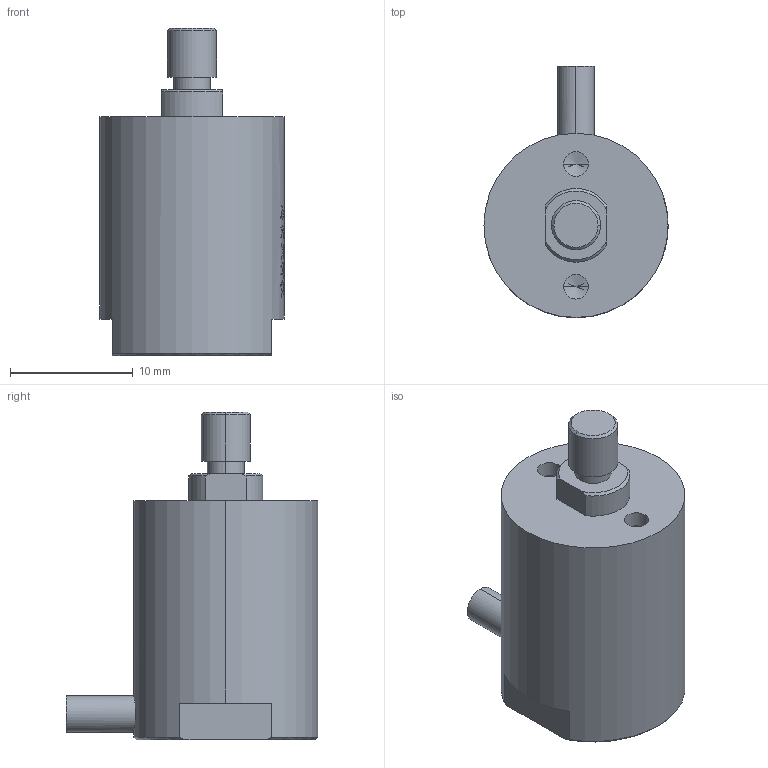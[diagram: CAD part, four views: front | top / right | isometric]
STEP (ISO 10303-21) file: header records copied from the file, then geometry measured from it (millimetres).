
FILE_DESCRIPTION (( 'STEP AP203' ), '1' );
FILE_NAME ('7VS15俋蹟恇.STEP', '2024-11-30T03:21:51', ( 'daohangxitong.com' ), ( 'daohangxitong.com' ), 'SwSTEP 2.0', 'SolidWorks 2016', '' );
FILE_SCHEMA (( 'CONFIG_CONTROL_DESIGN' ));
Length unit declared in the file: millimetre
Products named in the file (1): 7VS15俋蹟恇
Bounding box: 15 x 20.5 x 26.7 mm (x, y, z)
Volume: 3512.9 mm3; surface area: 1497.7 mm2
Topology: 1 solids, 1 shells, 955 faces, 2750 edges, 1827 vertices
Faces by surface type: bspline 838, plane 53, cylinder 50, cone 14
Entity records: 49372 total; most frequent: CARTESIAN_POINT 31776, ORIENTED_EDGE 5488, EDGE_CURVE 2744, B_SPLINE_CURVE_WITH_KNOTS 2569, VERTEX_POINT 1827, EDGE_LOOP 991, ADVANCED_FACE 955, FACE_OUTER_BOUND 955
